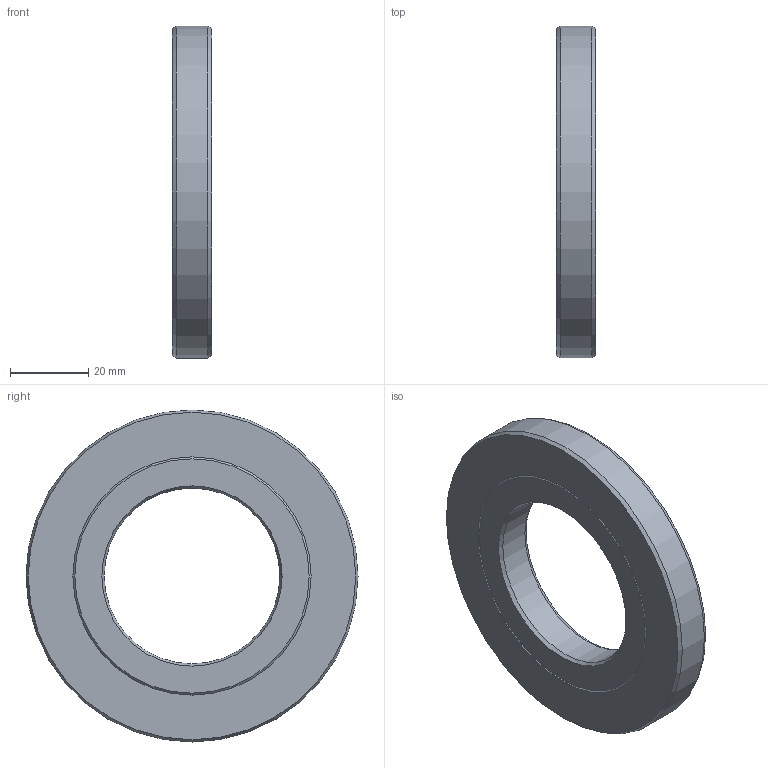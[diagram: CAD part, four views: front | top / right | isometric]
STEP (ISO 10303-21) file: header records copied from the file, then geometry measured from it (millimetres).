
FILE_DESCRIPTION(/* description */ (''),/* implementation_level */ '2;1');
FILE_NAME(/* name */ '301585 S45x85x10.stp',/* time_stamp */ '2016-12-16T13:46:25+01:00',/* author */ (''),/* organization */ (''),/* preprocessor_version */ 'ST-DEVELOPER v15',/* originating_system */ 'SIEMENS PLM Software NX 8.5',/* authorisation */ '');
FILE_SCHEMA (('CONFIG_CONTROL_DESIGN'));
Length unit declared in the file: millimetre
Products named in the file (1): ATE0000143_01
Bounding box: 10 x 85 x 85 mm (x, y, z)
Volume: 39552.4 mm3; surface area: 17186.6 mm2
Topology: 2 solids, 2 shells, 16 faces, 30 edges, 18 vertices
Faces by surface type: cone 10, plane 4, cylinder 2
Full cylindrical faces by diameter (mm): 45 x1, 85 x1
Entity records: 414 total; most frequent: DIRECTION 66, CARTESIAN_POINT 49, AXIS2_PLACEMENT_3D 33, FACE_BOUND 32, EDGE_LOOP 32, ORIENTED_EDGE 32, ADVANCED_FACE 16, VERTEX_POINT 16
